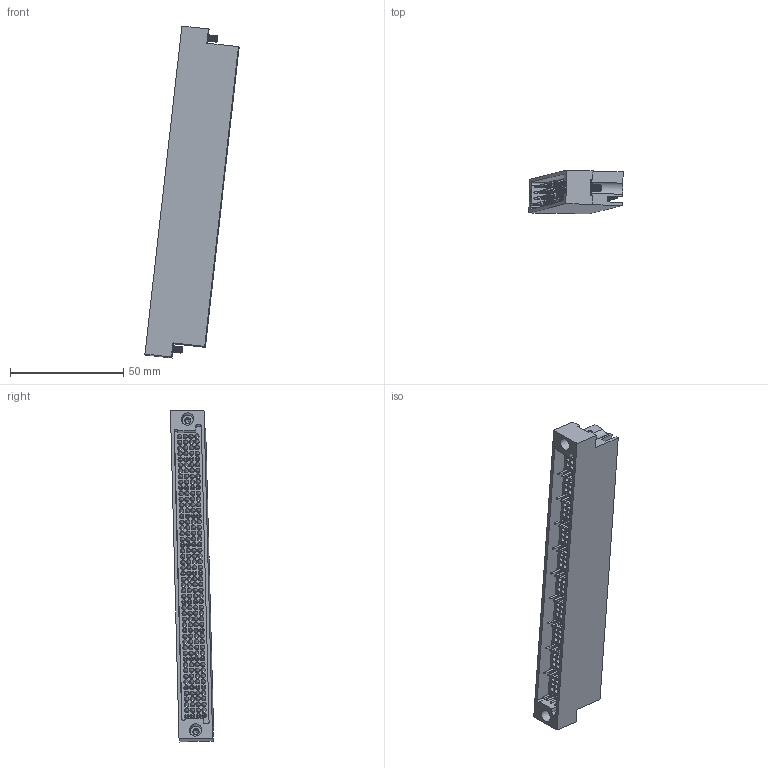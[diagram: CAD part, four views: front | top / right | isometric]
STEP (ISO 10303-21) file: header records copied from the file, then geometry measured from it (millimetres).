
FILE_DESCRIPTION((''),'2;1');
FILE_NAME('C:\old_Drawings\shrinkwrapped website .stp files\562055-STP.stp','2011-05-19T10:48:07',('GaryRobinson'),(''),'Autodesk Inventor 2011','Autodesk Inventor 2011','');
FILE_SCHEMA(('CONFIG_CONTROL_DESIGN'));
Length unit declared in the file: inch
Products named in the file (1): 562055-STP
Bounding box: 41.67 x 19.09 x 146.82 mm (x, y, z)
Surface area: 35344.5 mm2 (no closed solid volume)
Topology: 0 solids, 45 shells, 1359 faces, 2724 edges, 1706 vertices
Faces by surface type: cylinder 702, plane 485, torus 80, sphere 80, cone 8, bspline 4
Full cylindrical faces by diameter (mm): 0.635 x80, 1.575 x40, 1.905 x80, 1.981 x200, 2.159 x40, 2.261 x200, 2.381 x2, 2.845 x12, 3.429 x2, 3.962 x4, 4.064 x2, 5.08 x2, 5.461 x2
Entity records: 33253 total; most frequent: CARTESIAN_POINT 5908, DIRECTION 5822, ORIENTED_EDGE 3396, EDGE_LOOP 2902, AXIS2_PLACEMENT_3D 2818, EDGE_CURVE 1698, VERTEX_POINT 1596, FACE_BOUND 1557
